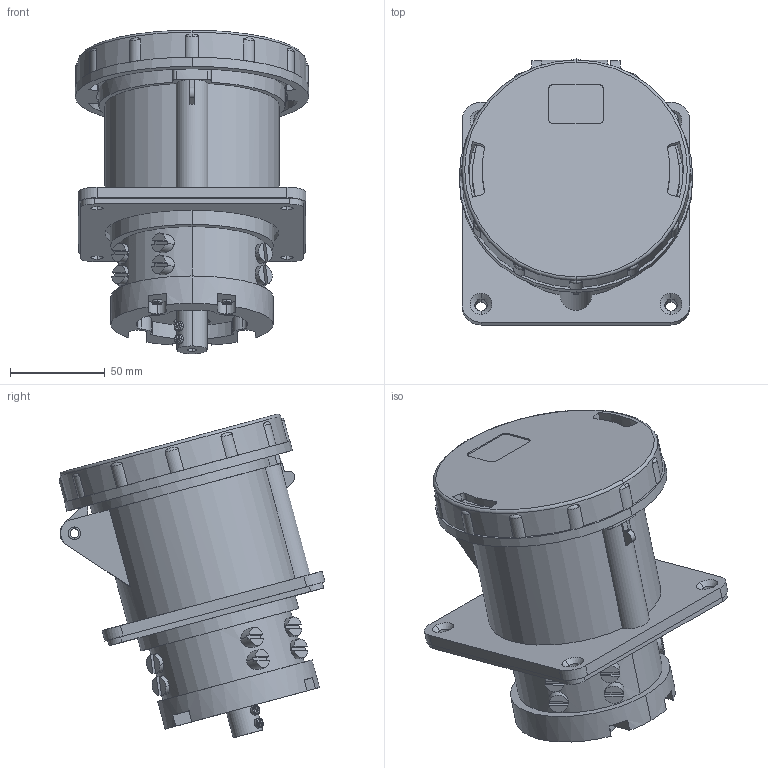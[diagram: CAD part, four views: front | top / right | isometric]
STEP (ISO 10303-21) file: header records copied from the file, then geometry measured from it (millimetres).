
FILE_DESCRIPTION (( 'STEP AP203' ), '1' );
FILE_NAME ('TLR125653.STEP', '2018-10-24T19:04:33', ( '' ), ( '' ), 'SwSTEP 2.0', 'SolidWorks 2012', '' );
FILE_SCHEMA (( 'CONFIG_CONTROL_DESIGN' ));
Length unit declared in the file: millimetre
Products named in the file (1): TLR125653
Bounding box: 123 x 139.98 x 170.41 mm (x, y, z)
Volume: 974722.2 mm3; surface area: 135376 mm2
Topology: 1 solids, 1 shells, 464 faces, 1220 edges, 800 vertices
Faces by surface type: plane 231, cylinder 188, torus 33, cone 8, bspline 4
Entity records: 17335 total; most frequent: CARTESIAN_POINT 5486, DIRECTION 2527, ORIENTED_EDGE 2440, EDGE_CURVE 1220, AXIS2_PLACEMENT_3D 927, VERTEX_POINT 800, LINE 673, VECTOR 673
